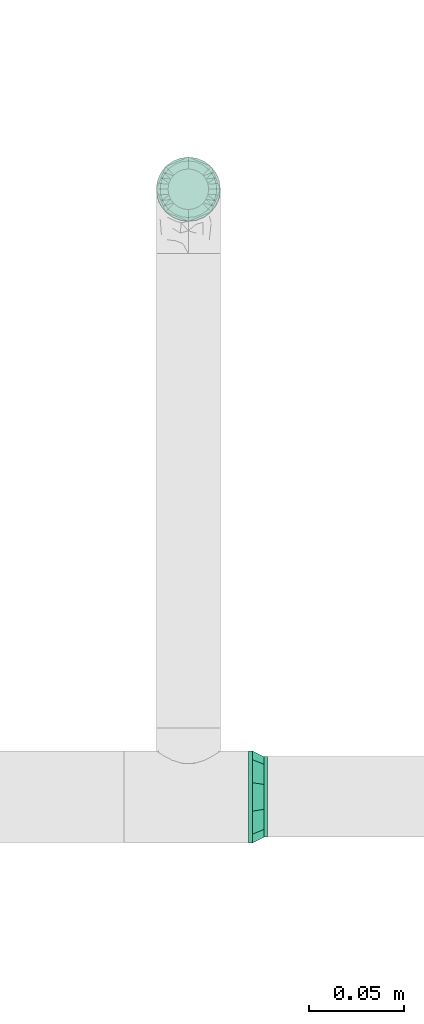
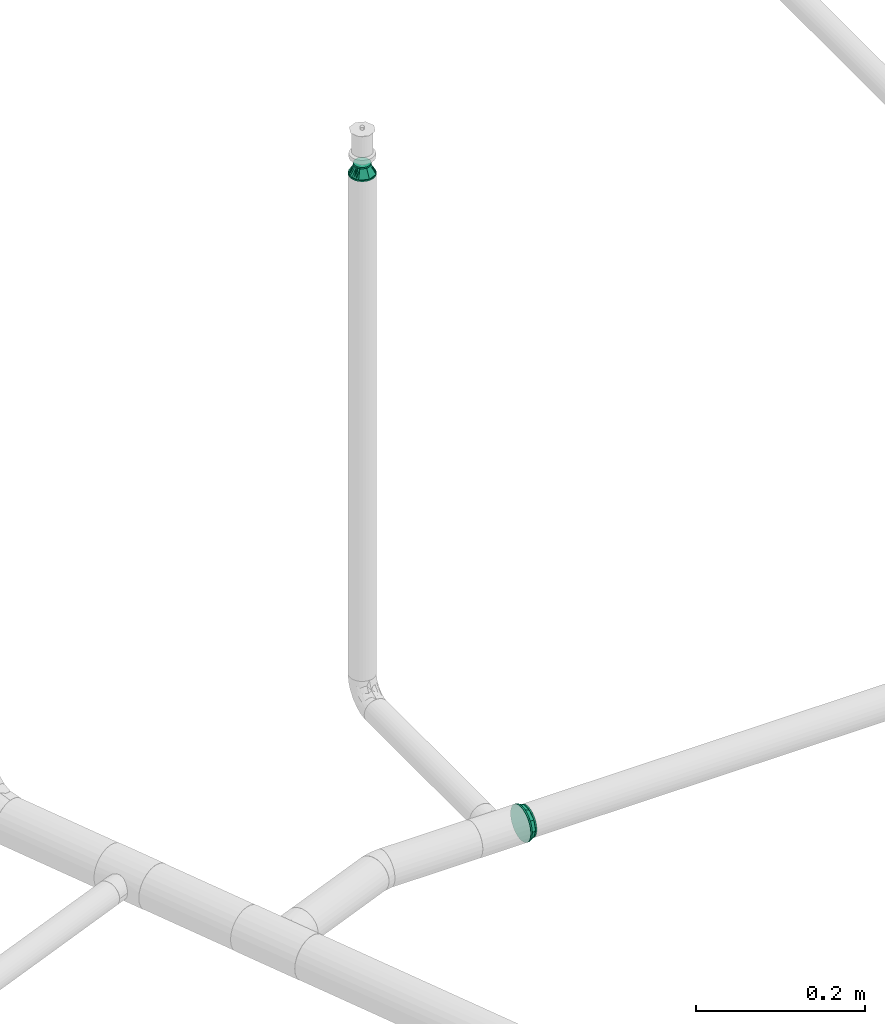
# One storey, part 43 of 94: 2 flow fittings.
"""IFC2X3 building model written with IfcOpenShell, lengths in millimetres."""

from ifc_helpers import new_model, entity, si_unit, converted_unit, derived_unit, direction, frame, origin_with_axes, place, context, subcontext, project, spatial, open_shell, surface_model, source, transform, mapped, type_object, element, save


model = new_model("IFC2X3")

# Units and contexts
model_context = context("Model", 3, precision=0.01, world=frame((0.0, 4.29681676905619e-09, 0.0)), true_north=direction((4.01073788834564e-13, 1.0)))
plan_context = context("Plan", 3, precision=0.01, world=frame((0.0, 4.29681676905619e-09, 0.0)), true_north=direction((4.01073788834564e-13, 1.0)))
body_context = subcontext(model_context, "Body", "Model", "MODEL_VIEW")
ifc_project = project(units=[converted_unit("PLANEANGLEUNIT", "DEGREE", entity("IfcPositiveLengthMeasure", 0.0174532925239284), si_unit("PLANEANGLEUNIT", "RADIAN"), dimensions=[0, 0, 0, 0, 0, 0, 0]), si_unit("AREAUNIT", "SQUARE_METRE"), si_unit("LENGTHUNIT", "METRE", prefix="MILLI"), si_unit("MASSUNIT", "GRAM", prefix="KILO"), si_unit("POWERUNIT", "WATT"), si_unit("PRESSUREUNIT", "PASCAL", prefix="KILO"), si_unit("FORCEUNIT", "NEWTON", prefix="KILO"), si_unit("ELECTRICVOLTAGEUNIT", "VOLT"), si_unit("ELECTRICCURRENTUNIT", "AMPERE"), si_unit("THERMODYNAMICTEMPERATUREUNIT", "DEGREE_CELSIUS"), si_unit("TIMEUNIT", "SECOND"), si_unit("VOLUMEUNIT", "CUBIC_METRE"), derived_unit("LINEARVELOCITYUNIT", [(si_unit("LENGTHUNIT", "METRE"), 1), (si_unit("TIMEUNIT", "SECOND"), -1)]), derived_unit("VOLUMETRICFLOWRATEUNIT", [(si_unit("VOLUMEUNIT", "CUBIC_METRE"), 1), (si_unit("TIMEUNIT", "SECOND"), -1)]), derived_unit("THERMALTRANSMITTANCEUNIT", [(si_unit("POWERUNIT", "WATT"), 1), (si_unit("THERMODYNAMICTEMPERATUREUNIT", "KELVIN"), -1), (si_unit("AREAUNIT", "SQUARE_METRE"), -1)]), derived_unit("SOUNDPRESSUREUNIT", [(si_unit("PRESSUREUNIT", "PASCAL"), 1)])], contexts=[model_context, plan_context])

# Site, building, storey
site_placement = place(None, frame((0.0, -4.29681676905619e-09, 0.0), z_axis=(0.0, 0.0, 1.0), x_axis=(1.0, 0.0, 0.0)))
site = spatial("IfcSite", under=ifc_project, at=site_placement, CompositionType="ELEMENT")
building_placement = place(site_placement, frame((0.0, 4.29681676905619e-09, 0.0), z_axis=(0.0, 0.0, 1.0), x_axis=(1.0, 0.0, 0.0)))
building = spatial("IfcBuilding", under=site, at=building_placement, Name="mc-building", CompositionType="ELEMENT")
storey_placement = place(building_placement, frame((0.0, 0.0, 210900.0), z_axis=(0.0, 0.0, 1.0), x_axis=(1.0, 0.0, 0.0)))
storey = spatial("IfcBuildingStorey", under=building, at=storey_placement, Name="Nivå F", CompositionType="ELEMENT", Elevation=210900.0)

# Flow fittings
pipe_fitting_type = type_object("IfcPipeFittingType", Name="magi_pipe_fe_reducer_centric_short_NOR", PredefinedType="TRANSITION")
shared_shape_1 = source(origin_with_axes(), body_context, "Body", "SurfaceModel", [
    surface_model("IfcShellBasedSurfaceModel", [(8.0, 10.6, -18.35974), (8.0, 0.0, -21.2), (8.0, 5.48696, -20.47763), (8.0, 20.47763, -5.48696), (8.0, 14.99066, -14.99066), (8.0, -21.2, 0.0), (8.0, -14.99066, -14.99066), (8.0, 18.35974, -10.6), (8.0, -10.6, -18.35974), (8.0, -5.48696, -20.47763), (8.0, -18.35974, -10.6), (8.0, -20.47763, -5.48696), (8.0, -18.35974, 10.6), (8.0, 21.2, 0.0), (8.0, 20.47763, 5.48696), (8.0, 18.35974, 10.6), (8.0, 14.99066, 14.99066), (8.0, 0.0, 21.2), (8.0, 10.6, 18.35974), (8.0, 5.48696, 20.47763), (8.0, -14.99066, 14.99066), (8.0, -20.47763, 5.48696), (8.0, -5.48696, 20.47763), (8.0, -10.6, 18.35974), (6.0, 0.0, 21.2), (6.0, 5.48696, 20.47763), (6.0, 10.6, 18.35974), (6.0, 14.99066, 14.99066), (6.0, 18.35974, 10.6), (6.0, 20.47763, 5.48696), (6.0, -21.2, 0.0), (6.0, -14.99066, -14.99066), (6.0, -5.48696, 20.47763), (6.0, -14.99066, 14.99066), (6.0, -10.6, 18.35974), (6.0, -18.35974, 10.6), (6.0, -20.47763, 5.48696), (6.0, 20.47763, -5.48696), (6.0, 10.6, -18.35974), (6.0, 14.99066, -14.99066), (6.0, 18.35974, -10.6), (6.0, 5.48696, -20.47763), (6.0, 0.0, -21.2), (6.0, -18.35974, -10.6), (6.0, -20.47763, -5.48696), (6.0, -10.6, -18.35974), (6.0, -5.48696, -20.47763), (6.0, 21.2, 0.0), (-2.0, 0.0, 24.2), (-2.0, 6.26342, 23.37541), (-2.0, 12.1, 20.95781), (-2.0, 17.11198, 17.11198), (-2.0, 24.2, 0.0), (-2.0, 20.95781, 12.1), (-2.0, -23.37541, 6.26342), (-2.0, -17.11198, -17.11198), (-2.0, -6.26342, 23.37541), (-2.0, -17.11198, 17.11198), (-2.0, -12.1, 20.95781), (-2.0, -20.95781, 12.1), (-2.0, -24.2, 0.0), (-2.0, 23.37541, 6.26342), (-2.0, 23.37541, -6.26342), (-2.0, 6.26342, -23.37541), (-2.0, 17.11198, -17.11198), (-2.0, 20.95781, -12.1), (-2.0, 12.1, -20.95781), (-2.0, -23.37541, -6.26342), (-2.0, -20.95781, -12.1), (-2.0, -6.26342, -23.37541), (-2.0, -12.1, -20.95781), (-2.0, 0.0, -24.2), (0.0, 24.2, 0.0), (0.0, 6.26342, -23.37541), (0.0, 12.1, -20.95781), (0.0, 23.37541, -6.26342), (0.0, 17.11198, -17.11198), (0.0, 20.95781, -12.1), (0.0, -24.2, 0.0), (0.0, -12.1, -20.95781), (0.0, -6.26342, -23.37541), (0.0, 0.0, -24.2), (0.0, -17.11198, -17.11198), (0.0, -23.37541, -6.26342), (0.0, -20.95781, -12.1), (0.0, 20.95781, 12.1), (0.0, 17.11198, 17.11198), (0.0, 12.1, 20.95781), (0.0, 6.26342, 23.37541), (0.0, 0.0, 24.2), (0.0, -23.37541, 6.26342), (0.0, -17.11198, 17.11198), (0.0, -20.95781, 12.1), (0.0, -6.26342, 23.37541), (0.0, -12.1, 20.95781), (0.0, 23.37541, 6.26342), (6.0, -6.55116, 20.1624), (6.0, -17.15116, 12.46105), (6.0, 17.15116, 12.46105), (6.0, 6.55116, 20.1624), (6.0, -6.55116, -20.1624), (6.0, -17.15116, -12.46105), (6.0, 6.55116, -20.1624), (6.0, 17.15116, -12.46105), (0.0, 7.47821, 23.01557), (0.0, 19.57821, 14.2244), (0.0, -7.47821, 23.01557), (0.0, -19.57821, 14.2244), (0.0, 7.47821, -23.01557), (0.0, 19.57821, -14.2244), (0.0, -7.47821, -23.01557), (0.0, -19.57821, -14.2244), (6.0, 11.85116, -16.31172), (0.0, 13.52821, -18.61999), (0.0, 21.8891, -7.1122), (6.0, 19.17558, -6.23052), (0.0, -22.51537, -5.18476), (6.0, 0.0, -20.1624), (0.0, 0.0, -23.01557), (6.0, -19.17558, -6.23052), (0.0, -13.52821, -18.61999), (6.0, -11.85116, -16.31172), (0.0, -21.04679, -9.70458), (6.0, -11.85116, 16.31172), (0.0, -13.52821, 18.61999), (0.0, -21.8891, 7.1122), (6.0, -19.17558, 6.23052), (0.0, 22.51537, 5.18476), (6.0, 0.0, 20.1624), (0.0, 0.0, 23.01557), (6.0, 19.17558, 6.23052), (0.0, 13.52821, 18.61999), (6.0, 11.85116, 16.31172), (0.0, 21.04679, 9.70458)], [open_shell([[[0, 1, 2]], [[3, 0, 4]], [[5, 6, 0]], [[3, 4, 7]], [[3, 5, 0]], [[1, 8, 9]], [[1, 0, 8]], [[10, 5, 11]], [[8, 0, 6]], [[10, 6, 5]], [[12, 3, 13]], [[14, 15, 16]], [[14, 16, 17]], [[18, 19, 17]], [[18, 17, 16]], [[14, 17, 20]], [[5, 12, 21]], [[3, 12, 5]], [[20, 22, 23]], [[12, 14, 20]], [[17, 22, 20]], [[12, 13, 14]], [[24, 25, 26]], [[24, 26, 27]], [[27, 28, 29]], [[27, 29, 24]], [[30, 24, 31]], [[32, 33, 34]], [[32, 24, 33]], [[35, 30, 36]], [[33, 24, 35]], [[24, 30, 35]], [[24, 29, 31]], [[29, 37, 38]], [[39, 37, 40]], [[31, 29, 38]], [[38, 37, 39]], [[41, 42, 38]], [[30, 43, 44]], [[31, 43, 30]], [[45, 42, 46]], [[45, 31, 38]], [[42, 45, 38]], [[37, 29, 47]], [[44, 11, 30]], [[43, 10, 44]], [[8, 31, 45]], [[43, 31, 6]], [[9, 45, 46]], [[44, 10, 11]], [[11, 5, 30]], [[9, 8, 45]], [[6, 31, 8]], [[6, 10, 43]], [[1, 9, 46]], [[46, 42, 1]], [[41, 2, 42]], [[38, 0, 41]], [[7, 39, 40]], [[38, 39, 4]], [[3, 40, 37]], [[38, 4, 0]], [[0, 2, 41]], [[13, 3, 37]], [[7, 40, 3]], [[7, 4, 39]], [[47, 13, 37]], [[42, 2, 1]], [[29, 14, 47]], [[28, 15, 29]], [[18, 27, 26]], [[28, 27, 16]], [[19, 26, 25]], [[29, 15, 14]], [[14, 13, 47]], [[19, 18, 26]], [[16, 27, 18]], [[16, 15, 28]], [[17, 19, 25]], [[25, 24, 17]], [[32, 22, 24]], [[34, 23, 32]], [[12, 33, 35]], [[34, 33, 20]], [[21, 35, 36]], [[34, 20, 23]], [[23, 22, 32]], [[5, 21, 36]], [[12, 35, 21]], [[12, 20, 33]], [[30, 5, 36]], [[24, 22, 17]], [[48, 49, 50]], [[48, 50, 51]], [[52, 51, 53]], [[54, 48, 55]], [[48, 51, 55]], [[56, 57, 58]], [[56, 48, 57]], [[57, 54, 59]], [[48, 54, 57]], [[54, 55, 60]], [[52, 53, 61]], [[51, 62, 63]], [[64, 62, 65]], [[66, 63, 62]], [[66, 62, 64]], [[63, 55, 51]], [[67, 55, 68]], [[60, 55, 67]], [[63, 69, 70]], [[70, 55, 63]], [[69, 63, 71]], [[62, 51, 52]], [[72, 73, 74]], [[75, 74, 76]], [[75, 72, 74]], [[75, 76, 77]], [[73, 78, 79]], [[73, 80, 81]], [[73, 79, 80]], [[82, 83, 84]], [[82, 79, 78]], [[82, 78, 83]], [[73, 72, 85]], [[85, 86, 73]], [[73, 86, 78]], [[87, 88, 89]], [[87, 89, 86]], [[78, 86, 89]], [[90, 91, 92]], [[93, 90, 78]], [[91, 93, 94]], [[93, 91, 90]], [[78, 89, 93]], [[72, 95, 85]], [[67, 83, 60]], [[68, 84, 67]], [[79, 55, 70]], [[68, 55, 82]], [[80, 70, 69]], [[67, 84, 83]], [[83, 78, 60]], [[80, 79, 70]], [[82, 55, 79]], [[82, 84, 68]], [[81, 80, 69]], [[69, 71, 81]], [[63, 73, 71]], [[66, 74, 63]], [[77, 64, 65]], [[66, 64, 76]], [[75, 65, 62]], [[66, 76, 74]], [[74, 73, 63]], [[72, 75, 62]], [[77, 65, 75]], [[77, 76, 64]], [[52, 72, 62]], [[71, 73, 81]], [[61, 95, 52]], [[53, 85, 61]], [[87, 51, 50]], [[53, 51, 86]], [[88, 50, 49]], [[61, 85, 95]], [[95, 72, 52]], [[88, 87, 50]], [[86, 51, 87]], [[86, 85, 53]], [[89, 88, 49]], [[49, 48, 89]], [[56, 93, 48]], [[58, 94, 56]], [[92, 57, 59]], [[58, 57, 91]], [[90, 59, 54]], [[58, 91, 94]], [[94, 93, 56]], [[78, 90, 54]], [[92, 59, 90]], [[92, 91, 57]], [[60, 78, 54]], [[48, 93, 89]], [[96, 97, 98]], [[96, 98, 99]], [[98, 97, 47]], [[97, 100, 47]], [[97, 101, 100]], [[102, 103, 47]], [[47, 100, 102]], [[101, 97, 30]], [[104, 105, 106]], [[105, 107, 106]], [[107, 105, 78]], [[105, 108, 78]], [[109, 108, 105]], [[78, 110, 111]], [[78, 108, 110]], [[105, 72, 109]], [[109, 103, 112]], [[102, 113, 112]], [[113, 102, 108]], [[114, 115, 103]], [[47, 115, 72]], [[113, 109, 112]], [[30, 78, 116]], [[108, 117, 118]], [[118, 117, 100]], [[100, 110, 118]], [[103, 109, 114]], [[72, 115, 114]], [[116, 119, 30]], [[120, 121, 101]], [[100, 121, 110]], [[119, 122, 101]], [[110, 121, 120]], [[101, 111, 120]], [[119, 116, 122]], [[102, 117, 108]], [[122, 111, 101]], [[107, 97, 123]], [[96, 124, 123]], [[124, 96, 106]], [[125, 126, 97]], [[30, 126, 78]], [[124, 107, 123]], [[47, 72, 127]], [[106, 128, 129]], [[129, 128, 99]], [[99, 104, 129]], [[97, 107, 125]], [[78, 126, 125]], [[127, 130, 47]], [[131, 132, 98]], [[99, 132, 104]], [[130, 133, 98]], [[104, 132, 131]], [[98, 105, 131]], [[130, 127, 133]], [[96, 128, 106]], [[133, 105, 98]]])]),
])
flow_fitting_1_placement = place(storey_placement, frame((719255.2788, 440878.08755, 3600.0), z_axis=(0.0, 0.0, 1.0), x_axis=(1.0, 0.0, 0.0)))
element("IfcFlowFitting", 1, at=flow_fitting_1_placement, inside=storey, type_object=pipe_fitting_type, Name="magi_pipe_fe_reducer_centric_short_NOR", context=body_context, shape_type="MappedRepresentation", body=[
    mapped(shared_shape_1, transform((0.0, 0.0, 0.0), scale=1.0)),
])
shared_shape_2 = source(origin_with_axes(), body_context, "Body", "SurfaceModel", [
    surface_model("IfcShellBasedSurfaceModel", [(14.4, 5.35, -9.26647), (14.4, 0.0, -10.7), (14.4, 2.76936, -10.33541), (14.4, 10.33541, -2.76936), (14.4, 7.56604, -7.56604), (14.4, -10.33541, -2.76936), (14.4, 9.26647, -5.35), (14.4, 0.0, 10.7), (14.4, -5.35, -9.26647), (14.4, -2.76936, -10.33541), (14.4, -7.56604, -7.56604), (14.4, -9.26647, -5.35), (14.4, 10.7, 0.0), (14.4, 10.33541, 2.76936), (14.4, 9.26647, 5.35), (14.4, 7.56604, 7.56604), (14.4, 2.76936, 10.33541), (14.4, 5.35, 9.26647), (14.4, -10.33541, 2.76936), (14.4, -7.56604, 7.56604), (14.4, -9.26647, 5.35), (14.4, -10.7, 0.0), (14.4, -2.76936, 10.33541), (14.4, -5.35, 9.26647), (12.4, 2.76936, 10.33541), (12.4, -10.33541, -2.76936), (12.4, 0.0, 10.7), (12.4, 5.35, 9.26647), (12.4, 7.56604, 7.56604), (12.4, 9.26647, 5.35), (12.4, 10.33541, 2.76936), (12.4, -10.33541, 2.76936), (12.4, -2.76936, 10.33541), (12.4, -7.56604, 7.56604), (12.4, -5.35, 9.26647), (12.4, -9.26647, 5.35), (12.4, -10.7, 0.0), (12.4, 10.33541, -2.76936), (12.4, 5.35, -9.26647), (12.4, 9.26647, -5.35), (12.4, 7.56604, -7.56604), (12.4, 2.76936, -10.33541), (12.4, -9.26647, -5.35), (12.4, -5.35, -9.26647), (12.4, -7.56604, -7.56604), (12.4, 0.0, -10.7), (12.4, -2.76936, -10.33541), (12.4, 10.7, 0.0), (-2.0, 11.9501, 11.9501), (-2.0, 0.0, 16.9), (-2.0, 4.37404, 16.32415), (-2.0, 8.45, 14.63583), (-2.0, 14.63583, 8.45), (-2.0, 16.32415, 4.37404), (-2.0, -16.32415, 4.37404), (-2.0, -8.45, 14.63583), (-2.0, -14.63583, 8.45), (-2.0, -11.9501, 11.9501), (-2.0, -4.37404, 16.32415), (-2.0, -16.32415, -4.37404), (-2.0, -16.9, 0.0), (-2.0, -8.45, -14.63583), (-2.0, 16.32415, -4.37404), (-2.0, 11.9501, -11.9501), (-2.0, 14.63583, -8.45), (-2.0, 8.45, -14.63583), (-2.0, 4.37404, -16.32415), (-2.0, 0.0, -16.9), (-2.0, -11.9501, -11.9501), (-2.0, -14.63583, -8.45), (-2.0, -4.37404, -16.32415), (-2.0, 16.9, 0.0), (0.0, 4.37404, -16.32415), (0.0, 8.45, -14.63583), (0.0, 11.9501, -11.9501), (0.0, 0.0, -16.9), (0.0, 16.32415, -4.37404), (0.0, 16.32415, 4.37404), (0.0, 14.63583, -8.45), (0.0, -8.45, -14.63583), (0.0, -4.37404, -16.32415), (0.0, -11.9501, -11.9501), (0.0, -16.32415, -4.37404), (0.0, -14.63583, -8.45), (0.0, -16.32415, 4.37404), (0.0, 16.9, 0.0), (0.0, 14.63583, 8.45), (0.0, 11.9501, 11.9501), (0.0, 4.37404, 16.32415), (0.0, 8.45, 14.63583), (0.0, 0.0, 16.9), (0.0, -14.63583, 8.45), (0.0, -16.9, 0.0), (0.0, -8.45, 14.63583), (0.0, -11.9501, 11.9501), (0.0, -4.37404, 16.32415), (12.4, 9.3625, -2.31662), (0.0, 14.42505, -5.97505), (0.0, 15.66253, -2.98753), (12.4, -6.6875, -6.94985), (0.0, -13.18758, -8.96258), (0.0, 2.98753, -15.66253), (12.4, 0.0, -9.26647), (12.4, 6.6875, -6.94985), (0.0, 8.96258, -13.18758), (12.4, -9.3625, -2.31662), (0.0, -15.66253, -2.98753), (0.0, -14.42505, -5.97505), (0.0, 5.97505, -14.42505), (0.0, -2.98753, -15.66253), (0.0, -8.96258, -13.18758), (0.0, 13.18758, -8.96258), (12.4, 8.025, -4.63324), (12.4, -2.675, -9.26647), (12.4, 2.675, -9.26647), (0.0, -5.97505, -14.42505), (12.4, -8.025, -4.63324), (12.4, -9.3625, 2.31662), (0.0, -14.42505, 5.97505), (0.0, -15.66253, 2.98753), (12.4, 6.6875, 6.94985), (0.0, 13.18758, 8.96258), (0.0, -2.98753, 15.66253), (12.4, 0.0, 9.26647), (12.4, -6.6875, 6.94985), (0.0, -8.96258, 13.18758), (12.4, 9.3625, 2.31662), (0.0, 15.66253, 2.98753), (0.0, 14.42505, 5.97505), (0.0, -5.97505, 14.42505), (0.0, 2.98753, 15.66253), (0.0, 8.96258, 13.18758), (0.0, -13.18758, 8.96258), (12.4, -8.025, 4.63324), (12.4, 2.675, 9.26647), (12.4, -2.675, 9.26647), (0.0, 5.97505, 14.42505), (12.4, 8.025, 4.63324)], [open_shell([[[0, 1, 2]], [[3, 0, 4]], [[5, 0, 3]], [[3, 4, 6]], [[7, 5, 3]], [[1, 8, 9]], [[1, 0, 8]], [[10, 5, 11]], [[5, 10, 8]], [[0, 5, 8]], [[3, 12, 13]], [[13, 14, 15]], [[13, 15, 16]], [[7, 3, 16]], [[16, 15, 17]], [[7, 18, 5]], [[18, 19, 20]], [[21, 5, 18]], [[19, 22, 23]], [[22, 19, 18]], [[7, 22, 18]], [[13, 16, 3]], [[24, 25, 26]], [[27, 25, 24]], [[28, 29, 30]], [[28, 25, 27]], [[31, 26, 25]], [[32, 33, 34]], [[33, 32, 31]], [[33, 31, 35]], [[32, 26, 31]], [[31, 25, 36]], [[30, 37, 28]], [[25, 28, 37]], [[38, 37, 39]], [[37, 38, 25]], [[38, 39, 40]], [[41, 25, 38]], [[42, 43, 44]], [[43, 42, 25]], [[43, 45, 46]], [[43, 25, 41]], [[41, 45, 43]], [[37, 30, 47]], [[25, 5, 36]], [[42, 11, 25]], [[8, 44, 43]], [[42, 44, 10]], [[9, 43, 46]], [[25, 11, 5]], [[5, 21, 36]], [[9, 8, 43]], [[10, 44, 8]], [[10, 11, 42]], [[1, 9, 46]], [[46, 45, 1]], [[41, 2, 45]], [[38, 0, 41]], [[6, 40, 39]], [[38, 40, 4]], [[3, 39, 37]], [[38, 4, 0]], [[0, 2, 41]], [[12, 3, 37]], [[6, 39, 3]], [[6, 4, 40]], [[47, 12, 37]], [[45, 2, 1]], [[30, 13, 47]], [[29, 14, 30]], [[17, 28, 27]], [[29, 28, 15]], [[16, 27, 24]], [[30, 14, 13]], [[13, 12, 47]], [[16, 17, 27]], [[15, 28, 17]], [[15, 14, 29]], [[7, 16, 24]], [[24, 26, 7]], [[32, 22, 26]], [[34, 23, 32]], [[20, 33, 35]], [[34, 33, 19]], [[18, 35, 31]], [[34, 19, 23]], [[23, 22, 32]], [[21, 18, 31]], [[20, 35, 18]], [[20, 19, 33]], [[36, 21, 31]], [[26, 22, 7]], [[48, 49, 50]], [[48, 50, 51]], [[48, 52, 53]], [[48, 53, 49]], [[49, 53, 54]], [[55, 56, 57]], [[55, 58, 49]], [[56, 55, 49]], [[49, 54, 56]], [[54, 59, 60]], [[54, 53, 61]], [[53, 62, 63]], [[63, 62, 64]], [[63, 65, 66]], [[61, 53, 63]], [[67, 63, 66]], [[59, 68, 69]], [[68, 59, 61]], [[61, 67, 70]], [[59, 54, 61]], [[63, 67, 61]], [[53, 71, 62]], [[72, 73, 74]], [[75, 72, 74]], [[74, 76, 77]], [[76, 74, 78]], [[74, 77, 79]], [[75, 79, 80]], [[75, 74, 79]], [[81, 82, 83]], [[82, 81, 79]], [[79, 84, 82]], [[77, 76, 85]], [[77, 86, 87]], [[77, 87, 88]], [[88, 84, 79]], [[88, 87, 89]], [[84, 88, 90]], [[90, 91, 84]], [[92, 82, 84]], [[91, 93, 94]], [[91, 90, 93]], [[93, 90, 95]], [[79, 77, 88]], [[59, 82, 60]], [[69, 83, 59]], [[79, 68, 61]], [[69, 68, 81]], [[80, 61, 70]], [[59, 83, 82]], [[82, 92, 60]], [[80, 79, 61]], [[81, 68, 79]], [[81, 83, 69]], [[75, 80, 70]], [[70, 67, 75]], [[66, 72, 67]], [[65, 73, 66]], [[78, 63, 64]], [[65, 63, 74]], [[76, 64, 62]], [[65, 74, 73]], [[73, 72, 66]], [[85, 76, 62]], [[78, 64, 76]], [[78, 74, 63]], [[71, 85, 62]], [[67, 72, 75]], [[53, 77, 71]], [[52, 86, 53]], [[89, 48, 51]], [[52, 48, 87]], [[88, 51, 50]], [[53, 86, 77]], [[77, 85, 71]], [[88, 89, 51]], [[87, 48, 89]], [[87, 86, 52]], [[90, 88, 50]], [[50, 49, 90]], [[58, 95, 49]], [[55, 93, 58]], [[91, 57, 56]], [[55, 57, 94]], [[84, 56, 54]], [[55, 94, 93]], [[93, 95, 58]], [[92, 84, 54]], [[91, 56, 84]], [[91, 94, 57]], [[60, 92, 54]], [[49, 95, 90]], [[27, 34, 47]], [[47, 34, 43]], [[43, 38, 47]], [[43, 34, 36]], [[90, 87, 94]], [[92, 94, 87]], [[87, 74, 92]], [[75, 92, 74]], [[81, 92, 75]], [[74, 87, 85]], [[96, 97, 98]], [[81, 99, 100]], [[101, 102, 75]], [[98, 85, 47]], [[74, 103, 104]], [[104, 103, 38]], [[105, 106, 107]], [[38, 108, 104]], [[102, 109, 75]], [[110, 99, 81]], [[47, 96, 98]], [[103, 111, 112]], [[109, 102, 113]], [[36, 92, 106]], [[102, 101, 114]], [[110, 115, 43]], [[96, 112, 97]], [[107, 116, 105]], [[36, 106, 105]], [[113, 115, 109]], [[43, 115, 113]], [[116, 107, 100]], [[108, 38, 114]], [[111, 103, 74]], [[111, 97, 112]], [[99, 110, 43]], [[116, 100, 99]], [[101, 108, 114]], [[117, 118, 119]], [[87, 120, 121]], [[122, 123, 90]], [[119, 92, 36]], [[94, 124, 125]], [[125, 124, 34]], [[126, 127, 128]], [[34, 129, 125]], [[123, 130, 90]], [[131, 120, 87]], [[36, 117, 119]], [[124, 132, 133]], [[130, 123, 134]], [[47, 85, 127]], [[123, 122, 135]], [[131, 136, 27]], [[117, 133, 118]], [[128, 137, 126]], [[47, 127, 126]], [[134, 136, 130]], [[27, 136, 134]], [[137, 128, 121]], [[129, 34, 135]], [[132, 124, 94]], [[132, 118, 133]], [[120, 131, 27]], [[137, 121, 120]], [[122, 129, 135]]])]),
])
flow_fitting_2_placement = place(storey_placement, frame((719221.4788, 441198.08755, 4357.64799999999), z_axis=(-1.0, 0.0, 0.0), x_axis=(0.0, 0.0, 1.0)))
element("IfcFlowFitting", 2, at=flow_fitting_2_placement, inside=storey, type_object=pipe_fitting_type, Name="magi_pipe_fe_reducer_centric_short_NOR", context=body_context, shape_type="MappedRepresentation", body=[
    mapped(shared_shape_2, transform((0.0, 0.0, 0.0), scale=1.0)),
])

save(model, "model.ifc")
